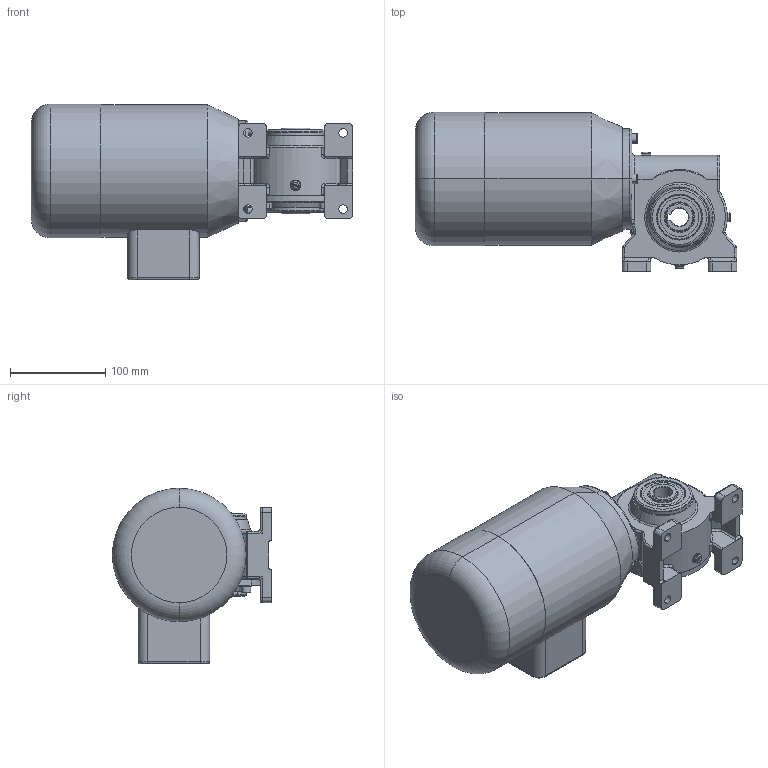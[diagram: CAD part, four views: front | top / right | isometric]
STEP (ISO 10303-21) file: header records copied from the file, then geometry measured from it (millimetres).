
FILE_DESCRIPTION (( 'STEP AP214' ), '1' );
FILE_NAME ('SN9SHH_370W_Drehstrom-Motor_A.STEP', '2021-05-10T10:39:53', ( '' ), ( '' ), 'SwSTEP 2.0', 'SolidWorks 2019', '' );
FILE_SCHEMA (( 'AUTOMOTIVE_DESIGN' ));
Length unit declared in the file: millimetre
Products named in the file (1): SN9SHH_370W_Drehstrom-Motor_A
Bounding box: 337 x 167 x 184 mm (x, y, z)
Surface area: 213640 mm2 (no closed solid volume)
Topology: 0 solids, 29 shells, 442 faces, 1202 edges, 757 vertices
Faces by surface type: cylinder 157, plane 147, torus 69, cone 47, bspline 20, sphere 2
Entity records: 20480 total; most frequent: CARTESIAN_POINT 4553, DIRECTION 2473, ORIENTED_EDGE 2096, EDGE_CURVE 1176, AXIS2_PLACEMENT_3D 993, VERTEX_POINT 755, CIRCLE 570, EDGE_LOOP 508
